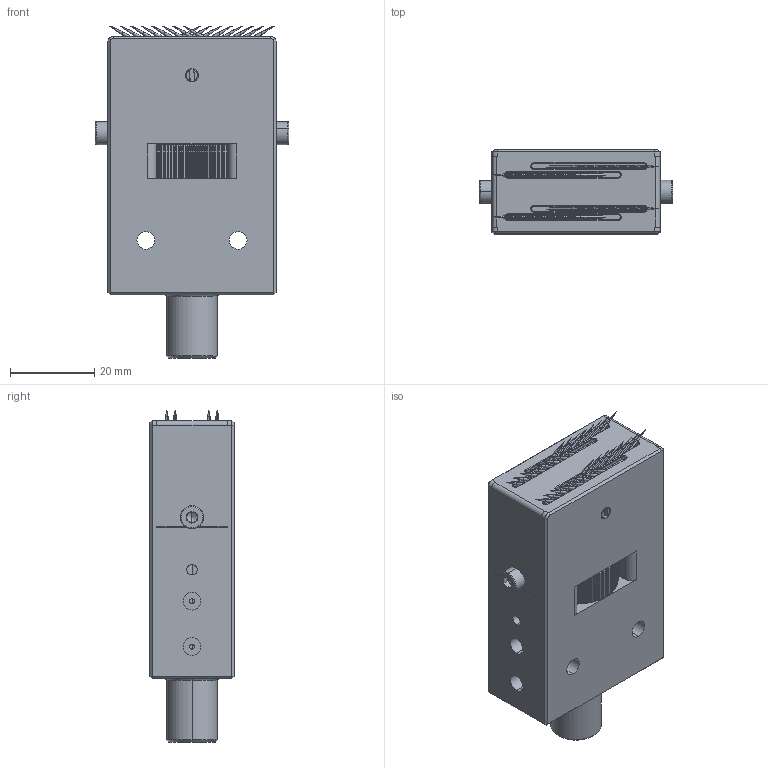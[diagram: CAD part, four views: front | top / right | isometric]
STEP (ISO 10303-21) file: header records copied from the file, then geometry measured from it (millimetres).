
FILE_DESCRIPTION(/* description */ (''),/* implementation_level */ '2;1');
FILE_NAME(/* name */ 'GN2002-32.stp',/* time_stamp */ '2023-12-18T10:53:19+08:00',/* author */ (''),/* organization */ (''),/* preprocessor_version */ 'ST-DEVELOPER v16.7',/* originating_system */ 'SIEMENS PLM Software NX 12.0',/* authorisation */ '');
FILE_SCHEMA (('AUTOMOTIVE_DESIGN { 1 0 10303 214 3 1 1 1 }'));
Length unit declared in the file: millimetre
Products named in the file (1): _model34
Bounding box: 46 x 20.01 x 79.02 mm (x, y, z)
Volume: 41772.7 mm3; surface area: 20018.6 mm2
Topology: 35 solids, 36 shells, 810 faces, 2081 edges, 1288 vertices
Faces by surface type: plane 498, cylinder 180, cone 123, torus 6, bspline 3
Entity records: 26085 total; most frequent: CARTESIAN_POINT 7131, ORIENTED_EDGE 4018, DIRECTION 3439, EDGE_CURVE 2009, VERTEX_POINT 1288, AXIS2_PLACEMENT_3D 1243, LINE 953, VECTOR 953
